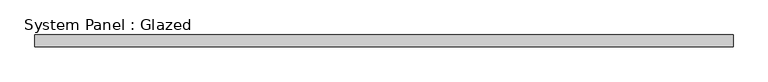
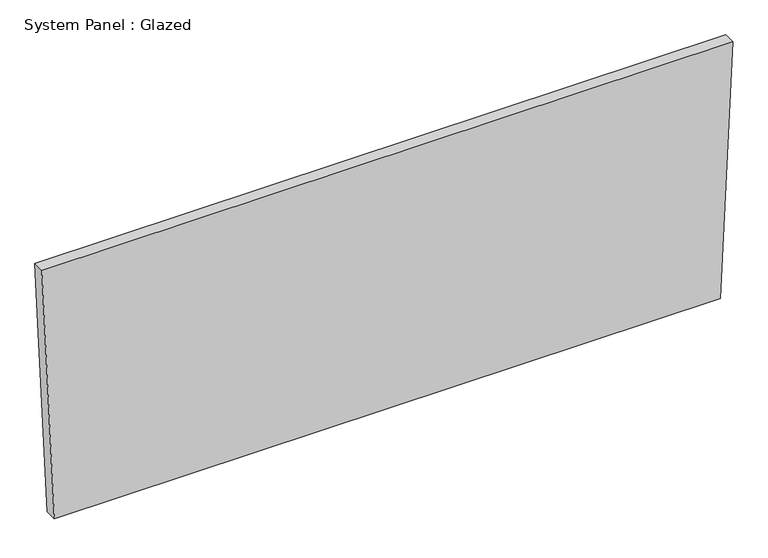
"""IFC4 building model written with IfcOpenShell, lengths in millimetres: plate geometry, System Panel : Glazed."""

from ifc_helpers import new_model, si_unit, frame, origin, place, context, project, spatial, polyline, outline, extrude, source, transform, mapped, element, save


def system_panel_glazed_e73b46dd(model_context):
    return source(origin(), model_context, "Body", "SweptSolid", [
        extrude(outline(polyline([(0.0, -712.0219895), (0.0, 712.0219895), (570.8339015, 738.7291447), (570.8339015, -738.7291447), (0.0, -712.0219895)])), frame((0.0, -44.45, 0.0), z_axis=(0.0, 1.0, 0.0), x_axis=(0.0, 0.0, 1.0)), (0.0, 0.0, 1.0), 25.4),
    ])


if __name__ == "__main__":
    model = new_model("IFC4")
    model_context = context("Model", 3, world=origin())
    ifc_project = project(units=[si_unit("LENGTHUNIT", "METRE", prefix="MILLI")], contexts=[model_context])
    site = spatial("IfcSite", under=ifc_project)
    building = spatial("IfcBuilding", under=site)
    placement = place(None, origin())
    system_panel_glazed_shape = system_panel_glazed_e73b46dd(model_context)
    element("IfcPlate", 1, ObjectType="System Panel : Glazed", at=placement, inside=building, context=model_context, shape_type="MappedRepresentation", body=[
        mapped(system_panel_glazed_shape, transform((0.0, 0.0, 0.0), x_axis=(1.0, 0.0, 0.0), y_axis=(0.0, 1.0, 0.0), z_axis=(0.0, 0.0, 1.0))),
    ])
    save(model, "model.ifc")
